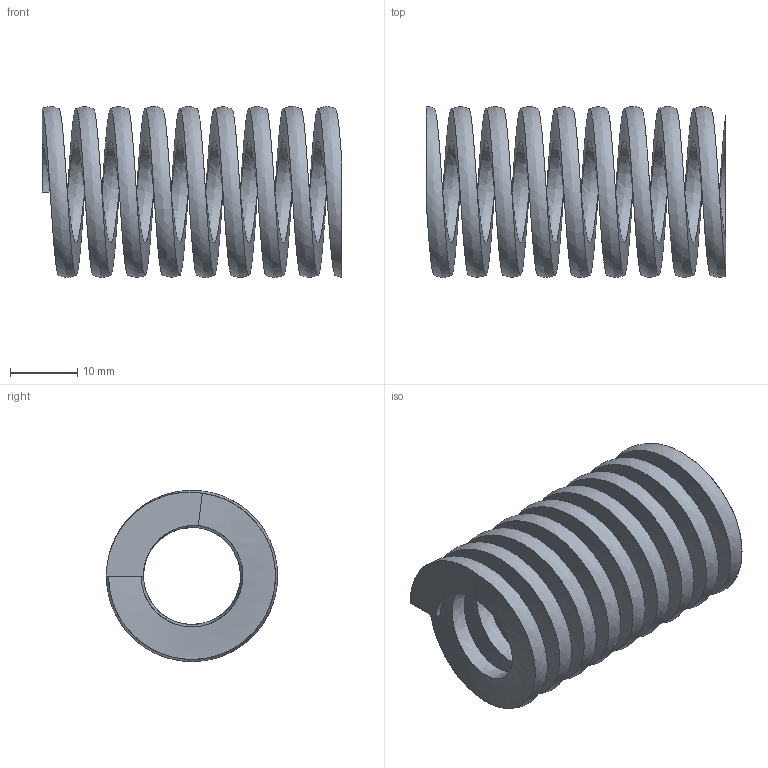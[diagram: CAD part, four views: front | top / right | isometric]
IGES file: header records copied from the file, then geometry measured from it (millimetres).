
Start section: SolidWorks IGES file using analytic representation for surfaces
Global section: file name: C:\Users\365admin\AppData\Local\Temp\InFlowXlateWorking\HS100L1.75.igs; native system: SolidWorks 2018; preprocessor: SolidWorks 2018; author: 365admin; date: 200824.071152; units: inch
Bounding box: 44.45 x 25.39 x 25.39 mm (x, y, z)
Surface area: 8301.4 mm2 (no closed solid volume)
Topology: 0 solids, 0 shells, 7 faces, 117 edges, 117 vertices
Faces by surface type: bspline 7
